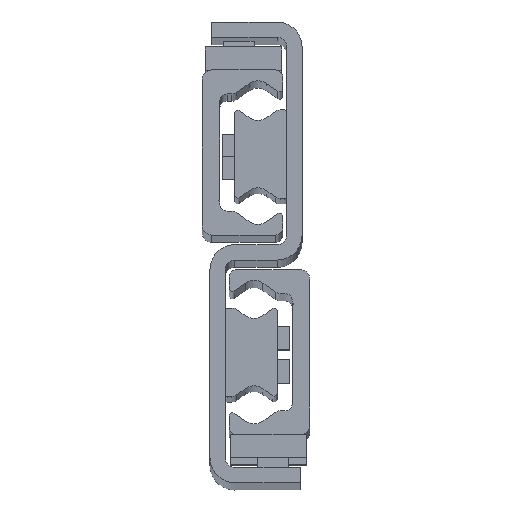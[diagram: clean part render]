
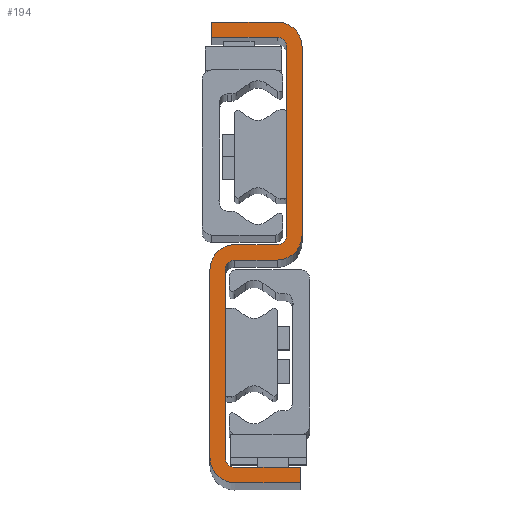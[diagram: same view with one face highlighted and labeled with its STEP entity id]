
A CAD part, top view. The second image highlights one B-rep face of the part: STEP entity #194.
In plain terms, the highlighted planar face has unit normal (0, 0, 1).
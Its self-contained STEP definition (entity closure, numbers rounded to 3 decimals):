
#194=ADVANCED_FACE('',(#641),#642,.T.);
#641=FACE_OUTER_BOUND('',#1347,.T.);
#642=PLANE('',#1348);
#1347=EDGE_LOOP('',(#2701,#2702,#2703,#2704,#2705,#2706,#2707,#2708,#2709,#2710,#2711,#2712,#2713,#2714,#2715,#2716,#2717,#2718,#2719,#2720));
#1348=AXIS2_PLACEMENT_3D('',#2721,#2722,#2723);
#2701=ORIENTED_EDGE('',*,*,#4669,.F.);
#2702=ORIENTED_EDGE('',*,*,#4727,.F.);
#2703=ORIENTED_EDGE('',*,*,#4724,.F.);
#2704=ORIENTED_EDGE('',*,*,#4721,.F.);
#2705=ORIENTED_EDGE('',*,*,#4718,.F.);
#2706=ORIENTED_EDGE('',*,*,#4715,.F.);
#2707=ORIENTED_EDGE('',*,*,#4712,.F.);
#2708=ORIENTED_EDGE('',*,*,#4709,.F.);
#2709=ORIENTED_EDGE('',*,*,#4706,.F.);
#2710=ORIENTED_EDGE('',*,*,#4703,.F.);
#2711=ORIENTED_EDGE('',*,*,#4700,.F.);
#2712=ORIENTED_EDGE('',*,*,#4697,.F.);
#2713=ORIENTED_EDGE('',*,*,#4694,.F.);
#2714=ORIENTED_EDGE('',*,*,#4691,.F.);
#2715=ORIENTED_EDGE('',*,*,#4688,.F.);
#2716=ORIENTED_EDGE('',*,*,#4685,.F.);
#2717=ORIENTED_EDGE('',*,*,#4682,.F.);
#2718=ORIENTED_EDGE('',*,*,#4679,.F.);
#2719=ORIENTED_EDGE('',*,*,#4676,.F.);
#2720=ORIENTED_EDGE('',*,*,#4673,.F.);
#2721=CARTESIAN_POINT('',(-14.,26.,1090.0));
#2722=DIRECTION('',(0.0,0.0,1.0));
#2723=DIRECTION('',(1.0,0.0,0.0));
#4669=EDGE_CURVE('',#5667,#5668,#5669,.T.);
#4673=EDGE_CURVE('',#5668,#5675,#5676,.T.);
#4676=EDGE_CURVE('',#5675,#5680,#5681,.T.);
#4679=EDGE_CURVE('',#5680,#5685,#5686,.T.);
#4682=EDGE_CURVE('',#5685,#5690,#5691,.T.);
#4685=EDGE_CURVE('',#5690,#5695,#5696,.T.);
#4688=EDGE_CURVE('',#5695,#5700,#5701,.T.);
#4691=EDGE_CURVE('',#5700,#5705,#5706,.T.);
#4694=EDGE_CURVE('',#5705,#5710,#5711,.T.);
#4697=EDGE_CURVE('',#5710,#5715,#5716,.T.);
#4700=EDGE_CURVE('',#5715,#5720,#5721,.T.);
#4703=EDGE_CURVE('',#5720,#5725,#5726,.T.);
#4706=EDGE_CURVE('',#5725,#5730,#5731,.T.);
#4709=EDGE_CURVE('',#5730,#5735,#5736,.T.);
#4712=EDGE_CURVE('',#5735,#5740,#5741,.T.);
#4715=EDGE_CURVE('',#5740,#5745,#5746,.T.);
#4718=EDGE_CURVE('',#5745,#5750,#5751,.T.);
#4721=EDGE_CURVE('',#5750,#5755,#5756,.T.);
#4724=EDGE_CURVE('',#5755,#5760,#5761,.T.);
#4727=EDGE_CURVE('',#5760,#5667,#5765,.T.);
#5667=VERTEX_POINT('',#7229);
#5668=VERTEX_POINT('',#7230);
#5669=LINE('',#7231,#7232);
#5675=VERTEX_POINT('',#7241);
#5676=CIRCLE('',#7242,2.5);
#5680=VERTEX_POINT('',#7247);
#5681=LINE('',#7248,#7249);
#5685=VERTEX_POINT('',#7255);
#5686=CIRCLE('',#7256,2.5);
#5690=VERTEX_POINT('',#7261);
#5691=LINE('',#7262,#7263);
#5695=VERTEX_POINT('',#7269);
#5696=LINE('',#7270,#7271);
#5700=VERTEX_POINT('',#7277);
#5701=LINE('',#7278,#7279);
#5705=VERTEX_POINT('',#7285);
#5706=CIRCLE('',#7286,6.5);
#5710=VERTEX_POINT('',#7291);
#5711=LINE('',#7292,#7293);
#5715=VERTEX_POINT('',#7299);
#5716=CIRCLE('',#7300,6.5);
#5720=VERTEX_POINT('',#7305);
#5721=LINE('',#7306,#7307);
#5725=VERTEX_POINT('',#7313);
#5726=CIRCLE('',#7314,2.5);
#5730=VERTEX_POINT('',#7319);
#5731=LINE('',#7320,#7321);
#5735=VERTEX_POINT('',#7327);
#5736=CIRCLE('',#7328,2.5);
#5740=VERTEX_POINT('',#7333);
#5741=LINE('',#7334,#7335);
#5745=VERTEX_POINT('',#7341);
#5746=LINE('',#7342,#7343);
#5750=VERTEX_POINT('',#7349);
#5751=LINE('',#7350,#7351);
#5755=VERTEX_POINT('',#7357);
#5756=CIRCLE('',#7358,6.5);
#5760=VERTEX_POINT('',#7363);
#5761=LINE('',#7364,#7365);
#5765=CIRCLE('',#7371,6.5);
#7229=CARTESIAN_POINT('',(-8.5,24.,1090.0));
#7230=CARTESIAN_POINT('',(-19.5,24.,1090.0));
#7231=CARTESIAN_POINT('',(-8.5,24.,1090.0));
#7232=VECTOR('',#8901,1.0);
#7241=CARTESIAN_POINT('',(-22.,21.5,1090.0));
#7242=AXIS2_PLACEMENT_3D('',#8905,#8906,#8907);
#7247=CARTESIAN_POINT('',(-22.,-27.5,1090.0));
#7248=CARTESIAN_POINT('',(-22.,-27.5,1090.0));
#7249=VECTOR('',#8912,1.0);
#7255=CARTESIAN_POINT('',(-19.5,-30.,1090.0));
#7256=AXIS2_PLACEMENT_3D('',#8915,#8916,#8917);
#7261=CARTESIAN_POINT('',(-2.5,-30.,1090.0));
#7262=CARTESIAN_POINT('',(-19.5,-30.,1090.0));
#7263=VECTOR('',#8922,1.0);
#7269=CARTESIAN_POINT('',(-2.5,-34.,1090.0));
#7270=CARTESIAN_POINT('',(-2.5,-34.,1090.0));
#7271=VECTOR('',#8925,1.0);
#7277=CARTESIAN_POINT('',(-19.5,-34.,1090.0));
#7278=CARTESIAN_POINT('',(-19.5,-34.,1090.0));
#7279=VECTOR('',#8928,1.0);
#7285=CARTESIAN_POINT('',(-26.,-27.5,1090.0));
#7286=AXIS2_PLACEMENT_3D('',#8931,#8932,#8933);
#7291=CARTESIAN_POINT('',(-26.,21.5,1090.0));
#7292=CARTESIAN_POINT('',(-26.,21.5,1090.0));
#7293=VECTOR('',#8938,1.0);
#7299=CARTESIAN_POINT('',(-19.5,28.,1090.0));
#7300=AXIS2_PLACEMENT_3D('',#8941,#8942,#8943);
#7305=CARTESIAN_POINT('',(-8.5,28.,1090.0));
#7306=CARTESIAN_POINT('',(-8.5,28.,1090.0));
#7307=VECTOR('',#8948,1.0);
#7313=CARTESIAN_POINT('',(-6.,30.5,1090.0));
#7314=AXIS2_PLACEMENT_3D('',#8951,#8952,#8953);
#7319=CARTESIAN_POINT('',(-6.,79.5,1090.0));
#7320=CARTESIAN_POINT('',(-6.,79.5,1090.0));
#7321=VECTOR('',#8958,1.0);
#7327=CARTESIAN_POINT('',(-8.5,82.,1090.0));
#7328=AXIS2_PLACEMENT_3D('',#8961,#8962,#8963);
#7333=CARTESIAN_POINT('',(-25.5,82.,1090.0));
#7334=CARTESIAN_POINT('',(-25.5,82.,1090.0));
#7335=VECTOR('',#8968,1.0);
#7341=CARTESIAN_POINT('',(-25.5,86.,1090.0));
#7342=CARTESIAN_POINT('',(-25.5,86.,1090.0));
#7343=VECTOR('',#8971,1.0);
#7349=CARTESIAN_POINT('',(-8.5,86.,1090.0));
#7350=CARTESIAN_POINT('',(-25.5,86.,1090.0));
#7351=VECTOR('',#8974,1.0);
#7357=CARTESIAN_POINT('',(-2.,79.5,1090.0));
#7358=AXIS2_PLACEMENT_3D('',#8977,#8978,#8979);
#7363=CARTESIAN_POINT('',(-2.,30.5,1090.0));
#7364=CARTESIAN_POINT('',(-2.,79.5,1090.0));
#7365=VECTOR('',#8984,1.0);
#7371=AXIS2_PLACEMENT_3D('',#8987,#8988,#8989);
#8901=DIRECTION('',(-1.0,0.,0.0));
#8905=CARTESIAN_POINT('',(-19.5,21.5,1090.0));
#8906=DIRECTION('',(0.0,0.0,1.0));
#8907=DIRECTION('',(1.0,0.0,0.0));
#8912=DIRECTION('',(-0.0,-1.0,-0.0));
#8915=CARTESIAN_POINT('',(-19.5,-27.5,1090.0));
#8916=DIRECTION('',(0.0,0.0,1.0));
#8917=DIRECTION('',(1.0,0.0,0.0));
#8922=DIRECTION('',(1.,0.,0.0));
#8925=DIRECTION('',(-0.0,-1.0,-0.0));
#8928=DIRECTION('',(-1.,0.,-0.0));
#8931=CARTESIAN_POINT('',(-19.5,-27.5,1090.0));
#8932=DIRECTION('',(0.0,0.0,-1.0));
#8933=DIRECTION('',(1.0,0.0,0.0));
#8938=DIRECTION('',(0.0,1.0,0.0));
#8941=CARTESIAN_POINT('',(-19.5,21.5,1090.0));
#8942=DIRECTION('',(0.0,0.0,-1.0));
#8943=DIRECTION('',(1.0,0.0,0.0));
#8948=DIRECTION('',(1.0,0.,0.0));
#8951=CARTESIAN_POINT('',(-8.5,30.5,1090.0));
#8952=DIRECTION('',(0.0,0.0,1.0));
#8953=DIRECTION('',(1.0,0.0,0.0));
#8958=DIRECTION('',(0.0,1.0,0.0));
#8961=CARTESIAN_POINT('',(-8.5,79.5,1090.0));
#8962=DIRECTION('',(0.0,0.0,1.0));
#8963=DIRECTION('',(1.0,0.0,0.0));
#8968=DIRECTION('',(-1.,0.,0.0));
#8971=DIRECTION('',(0.0,1.0,0.0));
#8974=DIRECTION('',(1.,0.,0.0));
#8977=CARTESIAN_POINT('',(-8.5,79.5,1090.0));
#8978=DIRECTION('',(0.0,0.0,-1.0));
#8979=DIRECTION('',(1.0,0.0,0.0));
#8984=DIRECTION('',(0.,-1.0,0.0));
#8987=CARTESIAN_POINT('',(-8.5,30.5,1090.0));
#8988=DIRECTION('',(0.0,0.0,-1.0));
#8989=DIRECTION('',(1.0,0.0,0.0));
